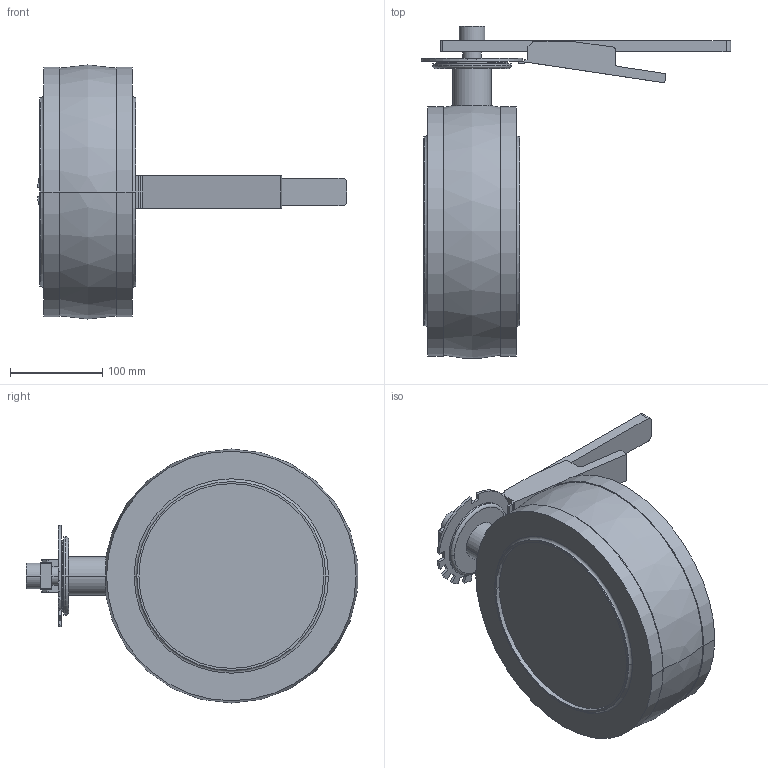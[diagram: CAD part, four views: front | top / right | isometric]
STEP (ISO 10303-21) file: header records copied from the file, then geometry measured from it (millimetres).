
FILE_DESCRIPTION(('Creo Elements/Direct Modeling STEP Export'),'2;1');
FILE_NAME('SVS1F-200-H-12S.stp','2013-09-10T15:55:00',(''),(''),'Creo Elements/Direct Modeling STEP processor for AP214 (Solid Model)','Creo Elements/Direct Modeling 17.0D 15-Jul-2011 (C) Parametric Technology GmbH','');
FILE_SCHEMA(('AUTOMOTIVE_DESIGN { 1 0 10303 214 1 1 1 1 }'));
Length unit declared in the file: millimetre
Products named in the file (2): SVS1F-200-H-12S
Assembly tree (1 placements, depth 2):
  SVS1F-200-H-12S
    SVS1F-200-H-12S
Bounding box: 334.76 x 359.31 x 275 mm (x, y, z)
Volume: 5852903.1 mm3; surface area: 274008.3 mm2
Topology: 1 solids, 1 shells, 117 faces, 297 edges, 194 vertices
Faces by surface type: plane 60, cylinder 45, torus 6, cone 4, sphere 2
Entity records: 3519 total; most frequent: ORIENTED_EDGE 594, CARTESIAN_POINT 565, DIRECTION 565, EDGE_CURVE 297, AXIS2_PLACEMENT_3D 194, VERTEX_POINT 194, VECTOR 177, LINE 177
